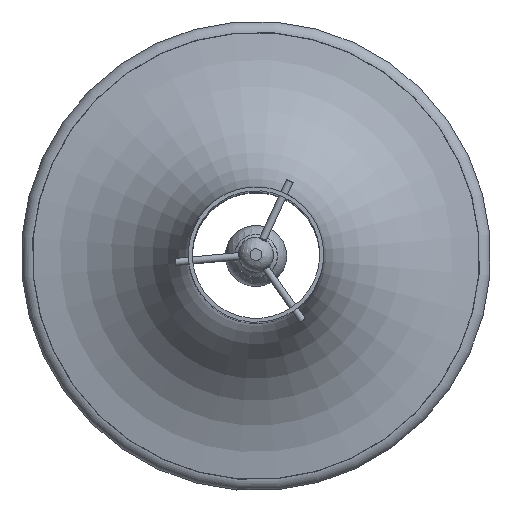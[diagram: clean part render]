
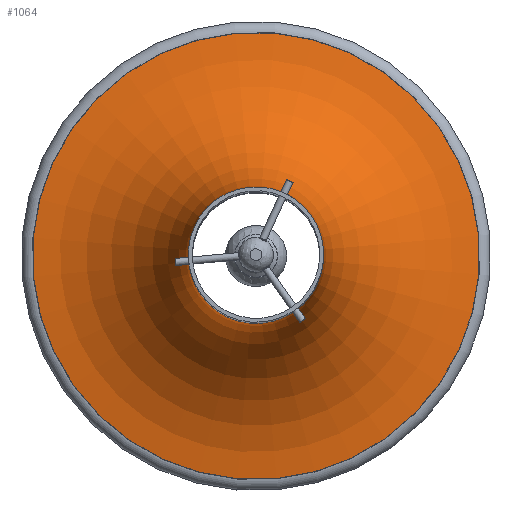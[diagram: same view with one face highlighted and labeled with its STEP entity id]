
A CAD part, top view. The second image highlights one B-rep face of the part: STEP entity #1064.
In plain terms, the highlighted toroidal (fillet/blend) face has major radius 130 mm and minor radius 92.5 mm.
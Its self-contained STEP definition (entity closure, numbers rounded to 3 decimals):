
#100=TOROIDAL_SURFACE('',#1348,130.,92.5);
#196=FACE_OUTER_BOUND('',#265,.T.);
#265=EDGE_LOOP('',(#955,#956,#957,#958,#959,#960,#961));
#416=CIRCLE('',#1344,123.927);
#418=CIRCLE('',#1346,123.927);
#419=CIRCLE('',#1347,123.927);
#420=CIRCLE('',#1349,92.5);
#421=CIRCLE('',#1350,37.5);
#422=CIRCLE('',#1351,37.5);
#529=VERTEX_POINT('',#2372);
#530=VERTEX_POINT('',#2373);
#531=VERTEX_POINT('',#2376);
#532=VERTEX_POINT('',#2380);
#533=VERTEX_POINT('',#2382);
#674=EDGE_CURVE('',#529,#530,#416,.T.);
#676=EDGE_CURVE('',#530,#531,#418,.T.);
#677=EDGE_CURVE('',#531,#529,#419,.T.);
#678=EDGE_CURVE('',#531,#532,#420,.T.);
#679=EDGE_CURVE('',#532,#533,#421,.T.);
#680=EDGE_CURVE('',#533,#532,#422,.T.);
#955=ORIENTED_EDGE('',*,*,#674,.F.);
#956=ORIENTED_EDGE('',*,*,#677,.F.);
#957=ORIENTED_EDGE('',*,*,#678,.T.);
#958=ORIENTED_EDGE('',*,*,#679,.T.);
#959=ORIENTED_EDGE('',*,*,#680,.T.);
#960=ORIENTED_EDGE('',*,*,#678,.F.);
#961=ORIENTED_EDGE('',*,*,#676,.F.);
#1064=ADVANCED_FACE('',(#196),#100,.F.);
#1344=AXIS2_PLACEMENT_3D('',#2374,#1697,#1698);
#1346=AXIS2_PLACEMENT_3D('',#2377,#1701,#1702);
#1347=AXIS2_PLACEMENT_3D('',#2378,#1703,#1704);
#1348=AXIS2_PLACEMENT_3D('',#2379,#1705,#1706);
#1349=AXIS2_PLACEMENT_3D('',#2381,#1707,#1708);
#1350=AXIS2_PLACEMENT_3D('',#2383,#1709,#1710);
#1351=AXIS2_PLACEMENT_3D('',#2384,#1711,#1712);
#1697=DIRECTION('center_axis',(0.,-1.,0.));
#1698=DIRECTION('ref_axis',(1.,0.,0.));
#1701=DIRECTION('center_axis',(0.,-1.,0.));
#1702=DIRECTION('ref_axis',(1.,0.,0.));
#1703=DIRECTION('center_axis',(0.,-1.,0.));
#1704=DIRECTION('ref_axis',(1.,0.,0.));
#1705=DIRECTION('center_axis',(0.,-1.,0.));
#1706=DIRECTION('ref_axis',(0.,0.,-1.));
#1707=DIRECTION('center_axis',(1.,0.,0.));
#1708=DIRECTION('ref_axis',(0.,0.,1.));
#1709=DIRECTION('center_axis',(0.,-1.,0.));
#1710=DIRECTION('ref_axis',(1.,0.,0.));
#1711=DIRECTION('center_axis',(0.,-1.,0.));
#1712=DIRECTION('ref_axis',(1.,0.,0.));
#2372=CARTESIAN_POINT('',(-123.927,6.7,0.));
#2373=CARTESIAN_POINT('',(0.,6.7,-123.927));
#2374=CARTESIAN_POINT('Origin',(0.,6.7,0.));
#2376=CARTESIAN_POINT('',(0.,6.7,123.927));
#2377=CARTESIAN_POINT('Origin',(0.,6.7,0.));
#2378=CARTESIAN_POINT('Origin',(0.,6.7,0.));
#2379=CARTESIAN_POINT('Origin',(0.,99.,0.));
#2380=CARTESIAN_POINT('',(0.,99.,37.5));
#2381=CARTESIAN_POINT('Origin',(0.,99.,130.));
#2382=CARTESIAN_POINT('',(-37.5,99.,0.));
#2383=CARTESIAN_POINT('Origin',(0.,99.,0.));
#2384=CARTESIAN_POINT('Origin',(0.,99.,0.));
